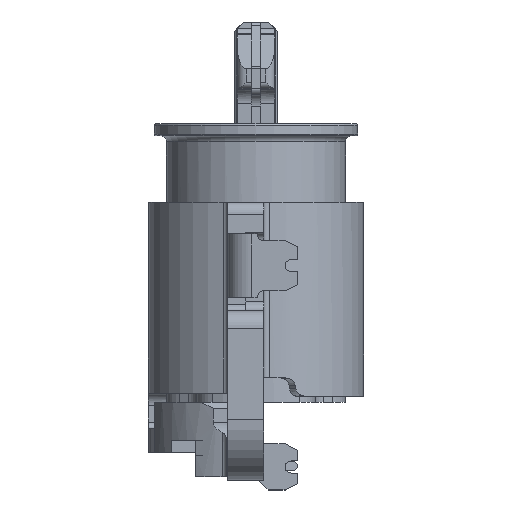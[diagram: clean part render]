
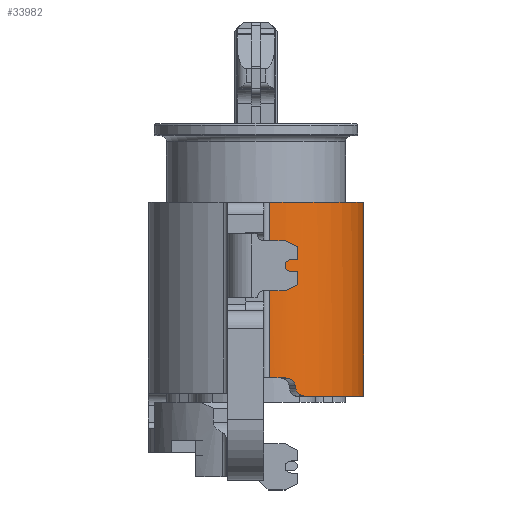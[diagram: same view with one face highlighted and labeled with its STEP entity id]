
A CAD part, left-side view. The second image highlights one B-rep face of the part: STEP entity #33982.
In plain terms, the highlighted cylindrical face has radius 1.73 mm (diameter 3.46 mm), a partial arc.
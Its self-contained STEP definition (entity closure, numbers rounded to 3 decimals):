
#10452=CARTESIAN_POINT('',(-2.95,-0.05,-1.3));
#10453=DIRECTION('',(0.,0.,1.));
#10454=DIRECTION('',(-0.995,-0.098,0.));
#10455=AXIS2_PLACEMENT_3D('',#10452,#10453,#10454);
#10457=DIRECTION('',(0.,0.,-1.));
#10458=VECTOR('',#10457,2.9);
#10459=CARTESIAN_POINT('',(-4.672,-0.22,
1.6));
#10460=LINE('',#10459,#10458);
#10461=CARTESIAN_POINT('',(-2.95,-0.05,-1.6));
#10462=DIRECTION('',(0.,0.,1.));
#10463=DIRECTION('',(-0.898,-0.441,0.));
#10464=AXIS2_PLACEMENT_3D('',#10461,#10462,#10463);
#10466=CARTESIAN_POINT('',(-4.569,-0.659,
-1.476));
#10467=CARTESIAN_POINT('',(-4.568,-0.662,
-1.493));
#10468=CARTESIAN_POINT('',(-4.563,-0.675,
-1.527));
#10469=CARTESIAN_POINT('',(-4.549,-0.711,
-1.567));
#10470=CARTESIAN_POINT('',(-4.528,-0.759,
-1.594));
#10471=CARTESIAN_POINT('',(-4.512,-0.795,
-1.6));
#10472=CARTESIAN_POINT('',(-4.503,-0.812,
-1.6));
#10474=DIRECTION('',(0.068,-0.184,-0.981));
#10475=VECTOR('',#10474,0.053);
#10476=CARTESIAN_POINT('',(-4.573,-0.649,
-1.424));
#10477=LINE('',#10476,#10475);
#10478=CARTESIAN_POINT('',(-4.573,-0.649,
-1.424));
#10479=CARTESIAN_POINT('',(-4.574,-0.646,
-1.407));
#10480=CARTESIAN_POINT('',(-4.579,-0.633,
-1.373));
#10481=CARTESIAN_POINT('',(-4.592,-0.596,
-1.333));
#10482=CARTESIAN_POINT('',(-4.608,-0.546,
-1.306));
#10483=CARTESIAN_POINT('',(-4.618,-0.508,
-1.3));
#10484=CARTESIAN_POINT('',(-4.623,-0.489,
-1.3));
#10532=CARTESIAN_POINT('',(-2.95,-0.05,1.6));
#10533=DIRECTION('',(0.,0.,1.));
#10534=DIRECTION('',(-0.995,-0.098,0.));
#10535=AXIS2_PLACEMENT_3D('',#10532,#10533,#10534);
#10940=DIRECTION('',(0.,0.,-1.));
#10941=VECTOR('',#10940,3.2);
#10942=CARTESIAN_POINT('',(-2.95,-1.78,1.6));
#10943=LINE('',#10942,#10941);
#16721=CARTESIAN_POINT('',(-2.95,-1.78,-1.6));
#16723=VERTEX_POINT('',#16721);
#16781=CARTESIAN_POINT('',(-4.672,-0.22,
-1.3));
#16782=CARTESIAN_POINT('',(-4.623,-0.489,
-1.3));
#16783=VERTEX_POINT('',#16781);
#16784=VERTEX_POINT('',#16782);
#16785=CARTESIAN_POINT('',(-4.672,-0.22,
1.6));
#16786=CARTESIAN_POINT('',(-2.95,-1.78,1.6));
#16787=VERTEX_POINT('',#16785);
#16788=VERTEX_POINT('',#16786);
#16789=CARTESIAN_POINT('',(-4.503,-0.812,
-1.6));
#16790=VERTEX_POINT('',#16789);
#16791=VERTEX_POINT('',#10466);
#16792=CARTESIAN_POINT('',(-4.573,-0.649,
-1.424));
#16793=VERTEX_POINT('',#16792);
#33961=CARTESIAN_POINT('',(-2.95,-0.05,1.6));
#33962=DIRECTION('',(0.,0.,1.));
#33963=DIRECTION('',(1.,0.,0.));
#33964=AXIS2_PLACEMENT_3D('',#33961,#33962,#33963);
#33965=CYLINDRICAL_SURFACE('',#33964,1.73);
#33967=ORIENTED_EDGE('',*,*,#33966,.F.);
#33969=ORIENTED_EDGE('',*,*,#33968,.F.);
#33971=ORIENTED_EDGE('',*,*,#33970,.T.);
#33973=ORIENTED_EDGE('',*,*,#33972,.T.);
#33974=ORIENTED_EDGE('',*,*,#33906,.F.);
#33975=ORIENTED_EDGE('',*,*,#33951,.F.);
#33977=ORIENTED_EDGE('',*,*,#33976,.F.);
#33979=ORIENTED_EDGE('',*,*,#33978,.T.);
#33980=EDGE_LOOP('',(#33967,#33969,#33971,#33973,#33974,#33975,#33977,#33979));
#33981=FACE_OUTER_BOUND('',#33980,.F.);
#10456=CIRCLE('',#10455,1.73);
#10465=CIRCLE('',#10464,1.73);
#10473=B_SPLINE_CURVE_WITH_KNOTS('',3,(#10466,#10467,#10468,#10469,#10470,
#10471,#10472),.UNSPECIFIED.,.F.,.F.,(4,1,1,1,4),(0.,0.25,0.5,0.75,
1.),.UNSPECIFIED.);
#10485=B_SPLINE_CURVE_WITH_KNOTS('',3,(#10478,#10479,#10480,#10481,#10482,
#10483,#10484),.UNSPECIFIED.,.F.,.F.,(4,1,1,1,4),(0.,0.25,0.5,0.75,
1.),.UNSPECIFIED.);
#10536=CIRCLE('',#10535,1.73);
#33906=EDGE_CURVE('',#16790,#16723,#10465,.T.);
#33951=EDGE_CURVE('',#16791,#16790,#10473,.T.);
#33966=EDGE_CURVE('',#16783,#16784,#10456,.T.);
#33968=EDGE_CURVE('',#16787,#16783,#10460,.T.);
#33970=EDGE_CURVE('',#16787,#16788,#10536,.T.);
#33972=EDGE_CURVE('',#16788,#16723,#10943,.T.);
#33976=EDGE_CURVE('',#16793,#16791,#10477,.T.);
#33978=EDGE_CURVE('',#16793,#16784,#10485,.T.);
#33982=ADVANCED_FACE('',(#33981),#33965,.T.);
